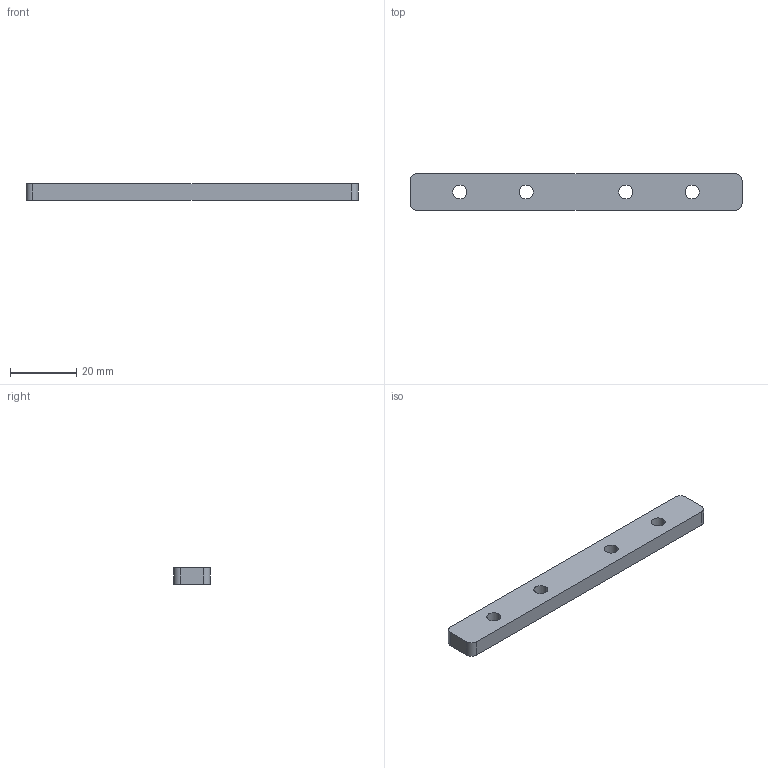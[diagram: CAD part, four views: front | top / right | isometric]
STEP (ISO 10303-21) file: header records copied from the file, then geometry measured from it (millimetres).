
FILE_DESCRIPTION (( 'STEP AP214' ), '1' );
FILE_NAME ('FACS 11x100.step', '2017-04-05T07:36:31', ( '' ), ( '' ), 'SwSTEP 2.0', 'SolidWorks 2015', '' );
FILE_SCHEMA (( 'AUTOMOTIVE_DESIGN' ));
Length unit declared in the file: millimetre
Products named in the file (1): FACS 11x100
Bounding box: 100 x 11 x 4.9 mm (x, y, z)
Volume: 5101.6 mm3; surface area: 3411.9 mm2
Topology: 1 solids, 1 shells, 18 faces, 48 edges, 32 vertices
Faces by surface type: cylinder 12, plane 6
Entity records: 714 total; most frequent: DIRECTION 110, CARTESIAN_POINT 99, ORIENTED_EDGE 96, EDGE_CURVE 48, AXIS2_PLACEMENT_3D 43, VERTEX_POINT 32, EDGE_LOOP 26, CIRCLE 24
